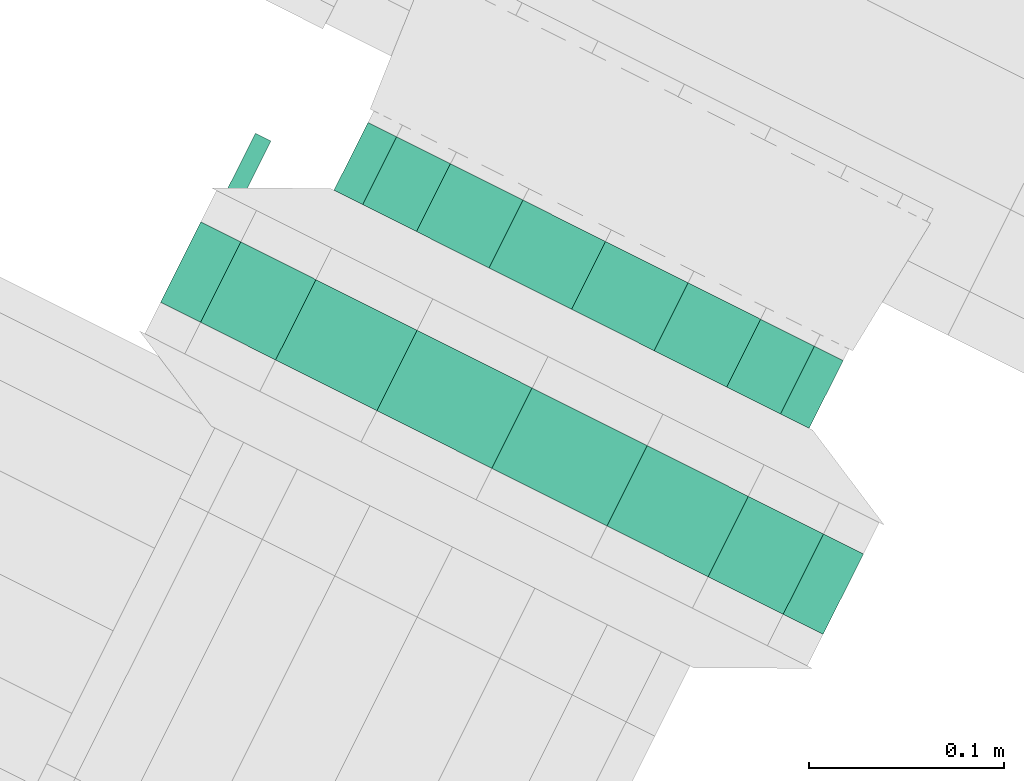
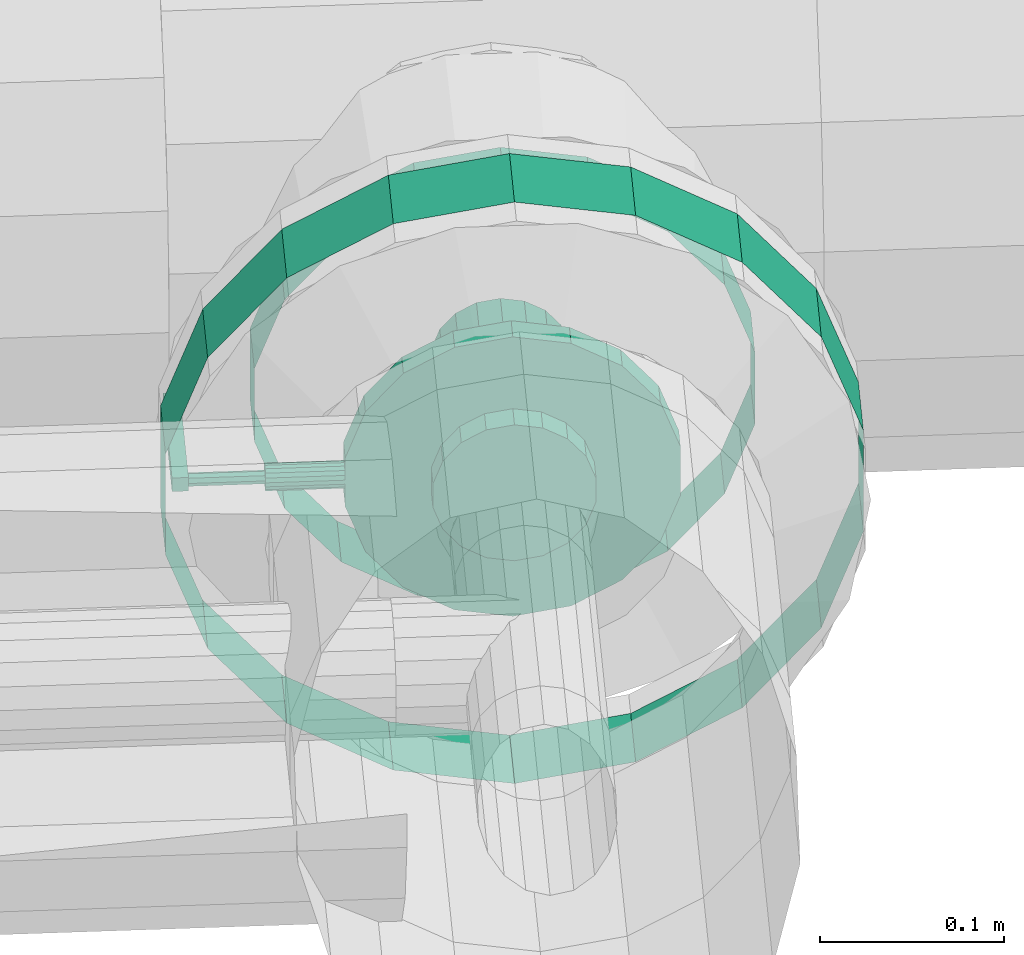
# One storey, part 44 of 152: 1 flow controller, 1 flow segment.
"""IFC2X3 building model written with IfcOpenShell, lengths in metres."""

import ifcopenshell
import ifcopenshell.guid

model = None  # the IFC model being written
_history = None  # IfcOwnerHistory: only IFC2X3 demands one
_inside = {}  # id of a spatial element -> (the spatial element, [elements in it])
_under = {}  # id of a project, library or spatial element -> (it, [spatial elements below it])
_declared = {}  # id of a project -> (the project, [libraries it declares])
_typed = {}  # id of a type object -> (the type object, [elements of that type])
_made_of = {}  # id of a material, layer set ... -> (it, [elements and type objects made of it])


def new_model(schema):
    """Start an empty IFC model of exactly this schema.

    Asked for "IFC4X3", IfcOpenShell would pick the latest addendum, in which some entities
    have other attributes; the version numbers below select the first issue.
    IFC2X3 requires an IfcOwnerHistory on every rooted entity: one is made here for all.
    """
    global model, _history
    if schema == "IFC4X3":
        model = ifcopenshell.file(schema_version=(4, 3, 0, 0))
    else:
        model = ifcopenshell.file(schema=schema)
    _inside.clear()
    _under.clear()
    _declared.clear()
    _typed.clear()
    _made_of.clear()
    _history = None
    if model.schema == "IFC2X3":
        org = make("IfcOrganization", Name="unknown")
        user = make(
            "IfcPersonAndOrganization",
            ThePerson=make("IfcPerson", FamilyName="unknown"),
            TheOrganization=org,
        )
        app = make(
            "IfcApplication",
            ApplicationDeveloper=org,
            Version="unknown",
            ApplicationFullName="unknown",
            ApplicationIdentifier="unknown",
        )
        _history = make(
            "IfcOwnerHistory",
            OwningUser=user,
            OwningApplication=app,
            ChangeAction="ADDED",
            CreationDate=0,
        )
    return model


def make(cls, **values):
    """One entity of the class cls with the attributes given. An attribute that is None is left unset."""
    return model.create_entity(
        cls, **{name: value for name, value in values.items() if value is not None}
    )


def rooted(cls, **values):
    """An entity with a GlobalId (a new one), such as an element, a storey or a relation."""
    return make(cls, GlobalId=ifcopenshell.guid.new(), OwnerHistory=_history, **values)


def si_unit(unit_type, name, prefix=None):
    """IfcSIUnit, for example si_unit("LENGTHUNIT", "METRE", prefix="MILLI")."""
    return make("IfcSIUnit", UnitType=unit_type, Prefix=prefix, Name=name)


def derived_unit(unit_type, elements):
    """IfcDerivedUnit: a product of units, each with its exponent."""
    return make(
        "IfcDerivedUnit",
        Elements=[
            make("IfcDerivedUnitElement", Unit=unit, Exponent=power)
            for unit, power in elements
        ],
        UnitType=unit_type,
    )


def assignment(units):
    """IfcUnitAssignment: the units of a project."""
    return None if units is None else make("IfcUnitAssignment", Units=units)


def point(xyz):
    """IfcCartesianPoint."""
    return None if xyz is None else make("IfcCartesianPoint", Coordinates=xyz)


def direction(xyz):
    """IfcDirection."""
    return None if xyz is None else make("IfcDirection", DirectionRatios=xyz)


def frame(location, z_axis=None, x_axis=None):
    """IfcAxis2Placement3D, a coordinate frame: its origin and axes. An axis left out is left unset."""
    return make(
        "IfcAxis2Placement3D",
        Location=point(location),
        Axis=direction(z_axis),
        RefDirection=direction(x_axis),
    )


def origin():
    """The frame at (0, 0, 0) with its axes left unset."""
    return frame((0.0, 0.0, 0.0))


def place(relative_to, where):
    """IfcLocalPlacement: puts the frame where relative to a parent placement (None: the world)."""
    return make(
        "IfcLocalPlacement", PlacementRelTo=relative_to, RelativePlacement=where
    )


def context(
    kind, dimensions, precision=None, world=None, true_north=None, identifier=None
):
    """IfcGeometricRepresentationContext, for example the 3D "Model" context."""
    return make(
        "IfcGeometricRepresentationContext",
        ContextIdentifier=identifier,
        ContextType=kind,
        CoordinateSpaceDimension=dimensions,
        Precision=precision,
        WorldCoordinateSystem=world,
        TrueNorth=true_north,
    )


def subcontext(parent, identifier, kind, view, scale=None):
    """IfcGeometricRepresentationSubContext, for example "Body" below "Model"."""
    return make(
        "IfcGeometricRepresentationSubContext",
        ContextIdentifier=identifier,
        ContextType=kind,
        ParentContext=parent,
        TargetScale=scale,
        TargetView=view,
    )


def project(units=None, contexts=None):
    """IfcProject with its units and contexts."""
    return rooted(
        "IfcProject",
        Name="project",
        RepresentationContexts=contexts,
        UnitsInContext=assignment(units),
    )


def spatial(cls, under=None, at=None, **own):
    """A site, building, storey or space (cls), placed at a placement, below another one or the project."""
    s = rooted(cls, ObjectPlacement=at, **own)
    if under is not None:
        _under.setdefault(under.id(), (under, []))[1].append(s)
    return s


def faces_of(points, faces, orient=None, outer=None):
    """IfcFace entities. A face is a list of loops; a loop is a list of indices into points, from 0.

    orient and outer hold one flag for each loop. By default every Orientation is true, the
    first loop of a face is its IfcFaceOuterBound and the others are IfcFaceBound.
    """
    made = []
    for i, loops in enumerate(faces):
        bounds = []
        for j, loop in enumerate(loops):
            is_outer = j == 0 if outer is None else outer[i][j]
            bounds.append(
                make(
                    "IfcFaceOuterBound" if is_outer else "IfcFaceBound",
                    Bound=make("IfcPolyLoop", Polygon=[points[k] for k in loop]),
                    Orientation=True if orient is None else orient[i][j],
                )
            )
        made.append(make("IfcFace", Bounds=bounds))
    return made


def face_set(faces, orient=None, outer=None):
    """The faces of one IfcConnectedFaceSet. surface_model builds it on its shared points."""
    return ("IfcConnectedFaceSet", faces, orient, outer)


def surface_model(cls, points, shells):
    """IfcFaceBasedSurfaceModel or IfcShellBasedSurfaceModel (cls): surfaces that need not close."""
    shared = [point(p) for p in points]
    made = [make(c, CfsFaces=faces_of(shared, fs, o, b)) for c, fs, o, b in shells]
    if cls == "IfcFaceBasedSurfaceModel":
        return make(cls, FbsmFaces=made)
    return make(cls, SbsmBoundary=made)


def shape(context_of_items, identifier, shape_type, items):
    """IfcShapeRepresentation: the items that make up one representation, for example the "Body"."""
    return make(
        "IfcShapeRepresentation",
        ContextOfItems=context_of_items,
        RepresentationIdentifier=identifier,
        RepresentationType=shape_type,
        Items=items,
    )


def source(mapping_origin, context_of_items, identifier, shape_type, items):
    """IfcRepresentationMap: a shape defined once, which mapped items show again and again."""
    return make(
        "IfcRepresentationMap",
        MappingOrigin=mapping_origin,
        MappedRepresentation=shape(context_of_items, identifier, shape_type, items),
    )


def transform(
    local_origin,
    x_axis=None,
    y_axis=None,
    z_axis=None,
    scale=None,
    scale2=None,
    scale3=None,
    uniform=True,
):
    """IfcCartesianTransformationOperator3D, or its non-uniform kind. x_axis, y_axis, z_axis: its Axis1, 2, 3."""
    if uniform:
        return make(
            "IfcCartesianTransformationOperator3D",
            Axis1=direction(x_axis),
            Axis2=direction(y_axis),
            LocalOrigin=point(local_origin),
            Scale=scale,
            Axis3=direction(z_axis),
        )
    return make(
        "IfcCartesianTransformationOperator3DnonUniform",
        Axis1=direction(x_axis),
        Axis2=direction(y_axis),
        LocalOrigin=point(local_origin),
        Scale=scale,
        Axis3=direction(z_axis),
        Scale2=scale2,
        Scale3=scale3,
    )


def mapped(mapping_source, mapping_target):
    """IfcMappedItem: shows the shape of a source again, moved by a transform."""
    return make(
        "IfcMappedItem", MappingSource=mapping_source, MappingTarget=mapping_target
    )


def material(Name=None, Category=None):
    """IfcMaterial."""
    return make("IfcMaterial", Name=Name, Category=Category)


def made_of(thing, what):
    """Note that an element or type object is made of a material, layer set ...; save() writes the relation."""
    if what is not None:
        _made_of.setdefault(what.id(), (what, []))[1].append(thing)
    return thing


def type_object(cls, material=None, **own):
    """A type object (cls), such as IfcWallType, which elements share."""
    return made_of(rooted(cls, **own), material)


def type_shapes(of_type, sources):
    """Give a type object the sources (RepresentationMaps) that its elements show as mapped items."""
    of_type.RepresentationMaps = sources


def element(
    cls,
    number,
    at=None,
    inside=None,
    cuts=None,
    type_object=None,
    material=None,
    context=None,
    identifier="Body",
    shape_type=None,
    held_by="IfcProductDefinitionShape",
    body=None,
    shapes=None,
    **own,
):
    """One element of the class cls, such as IfcWall. Its Tag is "e" and its number.

    at: its placement. inside: the storey or other place that contains it. cuts: it is an
    opening in that element (IfcRelVoidsElement). A single representation is given by context,
    identifier, shape_type and body (its items); several are given by shapes. held_by: the class
    of the entity that holds the representations. save() writes the other relations.
    """
    e = rooted(cls, Tag="e%d" % number, ObjectPlacement=at, **own)
    if body is not None:
        shapes = [shape(context, identifier, shape_type, body)]
    if shapes is not None:
        e.Representation = make(held_by, Representations=shapes)
    if inside is not None:
        _inside.setdefault(inside.id(), (inside, []))[1].append(e)
    if cuts is not None:
        rooted(
            "IfcRelVoidsElement", RelatingBuildingElement=cuts, RelatedOpeningElement=e
        )
    if type_object is not None:
        _typed.setdefault(type_object.id(), (type_object, []))[1].append(e)
    return made_of(e, material)


def aggregate(whole, parts):
    """IfcRelAggregates: a whole, such as a stair, and the parts it consists of."""
    return rooted("IfcRelAggregates", RelatingObject=whole, RelatedObjects=parts)


def save(model, path):
    """Write the relations noted so far, then the file.

    IfcRelAggregates (storeys below a building ...), IfcRelContainedInSpatialStructure (elements
    in a storey), IfcRelDefinesByType, IfcRelAssociatesMaterial and IfcRelDeclares: one each for
    every whole, place, type object, material and project.
    """
    for whole, parts in _under.values():
        aggregate(whole, parts)
    for where, things in _inside.values():
        rooted(
            "IfcRelContainedInSpatialStructure",
            RelatedElements=things,
            RelatingStructure=where,
        )
    for kind, things in _typed.values():
        rooted("IfcRelDefinesByType", RelatedObjects=things, RelatingType=kind)
    for what, things in _made_of.values():
        rooted("IfcRelAssociatesMaterial", RelatedObjects=things, RelatingMaterial=what)
    for by, libraries in _declared.values():
        rooted("IfcRelDeclares", RelatingContext=by, RelatedDefinitions=libraries)
    model.write(path)


model = new_model("IFC2X3")

# Units and contexts
model_context = context("Model", 3, precision=5.2338327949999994e-05, world=origin(), true_north=direction((0.0, 1.0)))
body_context = subcontext(model_context, "Body", "Model", "MODEL_VIEW")
ifc_project = project(units=[si_unit("LENGTHUNIT", "METRE"), si_unit("AREAUNIT", "SQUARE_METRE"), si_unit("VOLUMEUNIT", "CUBIC_METRE"), si_unit("MASSUNIT", "GRAM", prefix="KILO"), si_unit("PLANEANGLEUNIT", "RADIAN"), derived_unit("THERMALTRANSMITTANCEUNIT", [(si_unit("MASSUNIT", "GRAM", prefix="KILO"), 1), (si_unit("THERMODYNAMICTEMPERATUREUNIT", "KELVIN"), -1), (si_unit("TIMEUNIT", "SECOND"), -3)])], contexts=[model_context])

# Site, building, storey
site_placement = place(None, frame((0.0, 0.0, 0.0), z_axis=(0.0, 0.0, 1.0), x_axis=(0.8939966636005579, -0.4480736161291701, 0.0)))
site = spatial("IfcSite", under=ifc_project, at=site_placement, Name="Default", CompositionType="ELEMENT")
building_placement = place(site_placement, origin())
building = spatial("IfcBuilding", under=site, at=building_placement, CompositionType="ELEMENT")
storey_placement = place(building_placement, frame((0.0, 0.0, 2.7499999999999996)))
storey = spatial("IfcBuildingStorey", under=building, at=storey_placement, Name="1. Obergeschoss", CompositionType="ELEMENT", Elevation=2.7499999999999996)

# Flow controller
ifc_material = material(Name="IfcSurfaceStyle #1741")
distribution_element_type_1 = type_object("IfcDistributionElementType", Name="Zwischenflanschklappe 260081:Zwischenflanschklappe 260081", material=ifc_material)
shared_shape_1 = source(origin(), body_context, "Body", "SurfaceModel", [
    surface_model("IfcFaceBasedSurfaceModel", [(14.88124256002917, 7.739481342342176, 5.640140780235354), (14.88124256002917, 7.658881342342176, 5.640140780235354), (14.88124256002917, 7.658881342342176, 5.631140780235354), (14.88124256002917, 7.739481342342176, 5.631140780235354), (14.872242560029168, 7.658881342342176, 5.631140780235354), (14.872242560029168, 7.739481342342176, 5.631140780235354), (14.872242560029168, 7.658881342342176, 5.640140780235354), (14.872242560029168, 7.739481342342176, 5.640140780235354), (15.057242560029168, 7.686381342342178, 5.590640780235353), (15.072633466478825, 7.686381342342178, 5.593354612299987), (15.072633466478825, 7.671048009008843, 5.593354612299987), (15.057242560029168, 7.671048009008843, 5.590640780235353), (15.086168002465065, 7.686381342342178, 5.601168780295), (15.086168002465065, 7.671048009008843, 5.601168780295), (15.096213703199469, 7.686381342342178, 5.613140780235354), (15.096213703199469, 7.671048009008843, 5.613140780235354), (15.101558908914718, 7.686381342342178, 5.627826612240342), (15.101558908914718, 7.671048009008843, 5.627826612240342), (15.101558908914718, 7.686381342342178, 5.6434549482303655), (15.101558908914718, 7.671048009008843, 5.6434549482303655), (15.096213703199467, 7.686381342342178, 5.658140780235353), (15.096213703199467, 7.671048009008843, 5.658140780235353), (15.086168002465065, 7.686381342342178, 5.6701127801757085), (15.086168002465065, 7.671048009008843, 5.6701127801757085), (15.072633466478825, 7.686381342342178, 5.677926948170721), (15.072633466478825, 7.671048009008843, 5.677926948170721), (15.057242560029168, 7.686381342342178, 5.680640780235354), (15.057242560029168, 7.671048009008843, 5.680640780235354), (15.041851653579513, 7.686381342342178, 5.67792694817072), (15.041851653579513, 7.671048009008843, 5.67792694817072), (15.028317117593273, 7.686381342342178, 5.670112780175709), (15.028317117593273, 7.671048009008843, 5.670112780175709), (15.018271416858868, 7.686381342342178, 5.658140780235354), (15.018271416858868, 7.671048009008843, 5.658140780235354), (15.01292621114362, 7.686381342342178, 5.6434549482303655), (15.01292621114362, 7.671048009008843, 5.6434549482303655), (15.01292621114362, 7.686381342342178, 5.627826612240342), (15.01292621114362, 7.671048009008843, 5.627826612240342), (15.018271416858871, 7.686381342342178, 5.613140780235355), (15.018271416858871, 7.671048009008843, 5.613140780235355), (15.028317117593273, 7.686381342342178, 5.601168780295), (15.028317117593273, 7.671048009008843, 5.601168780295), (15.041851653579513, 7.686381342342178, 5.593354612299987), (15.041851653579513, 7.671048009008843, 5.593354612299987), (15.057242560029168, 7.686381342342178, 5.635640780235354), (15.057242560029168, 7.671048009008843, 5.635640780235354), (15.057242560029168, 7.671048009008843, 5.543140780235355), (15.088879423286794, 7.671048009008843, 5.548719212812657), (15.088879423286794, 7.655714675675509, 5.548719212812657), (15.057242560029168, 7.655714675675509, 5.543140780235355), (15.116700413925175, 7.671048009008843, 5.564781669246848), (15.116700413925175, 7.655714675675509, 5.564781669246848), (15.13734990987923, 7.671048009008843, 5.5893907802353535), (15.13734990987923, 7.655714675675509, 5.5893907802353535), (15.148337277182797, 7.671048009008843, 5.619578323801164), (15.148337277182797, 7.655714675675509, 5.619578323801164), (15.1483372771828, 7.671048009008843, 5.651703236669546), (15.1483372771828, 7.655714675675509, 5.651703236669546), (15.13734990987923, 7.671048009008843, 5.681890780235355), (15.13734990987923, 7.655714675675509, 5.681890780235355), (15.116700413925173, 7.671048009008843, 5.706499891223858), (15.116700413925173, 7.655714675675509, 5.706499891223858), (15.088879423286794, 7.671048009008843, 5.722562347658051), (15.088879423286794, 7.655714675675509, 5.722562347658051), (15.057242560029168, 7.671048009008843, 5.7281407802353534), (15.057242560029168, 7.655714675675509, 5.7281407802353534), (15.025605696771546, 7.671048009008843, 5.722562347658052), (15.025605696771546, 7.655714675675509, 5.722562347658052), (14.997784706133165, 7.671048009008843, 5.706499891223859), (14.997784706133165, 7.655714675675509, 5.706499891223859), (14.977135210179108, 7.671048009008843, 5.681890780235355), (14.977135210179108, 7.655714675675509, 5.681890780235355), (14.96614784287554, 7.671048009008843, 5.651703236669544), (14.96614784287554, 7.655714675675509, 5.651703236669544), (14.966147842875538, 7.671048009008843, 5.619578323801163), (14.966147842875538, 7.655714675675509, 5.619578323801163), (14.977135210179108, 7.671048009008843, 5.5893907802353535), (14.977135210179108, 7.655714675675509, 5.5893907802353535), (14.997784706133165, 7.671048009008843, 5.564781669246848), (14.997784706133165, 7.655714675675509, 5.564781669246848), (15.025605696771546, 7.671048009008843, 5.548719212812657), (15.025605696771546, 7.655714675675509, 5.548719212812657), (15.057242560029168, 7.655714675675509, 5.635640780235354), (15.057242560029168, 7.655714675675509, 5.590640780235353), (15.072633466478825, 7.655714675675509, 5.593354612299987), (15.072633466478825, 7.640381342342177, 5.593354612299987), (15.057242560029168, 7.640381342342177, 5.590640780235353), (15.086168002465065, 7.655714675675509, 5.601168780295), (15.086168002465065, 7.640381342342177, 5.601168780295), (15.096213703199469, 7.655714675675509, 5.613140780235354), (15.096213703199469, 7.640381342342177, 5.613140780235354), (15.101558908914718, 7.655714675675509, 5.627826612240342), (15.101558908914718, 7.640381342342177, 5.627826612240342), (15.101558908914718, 7.655714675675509, 5.6434549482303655), (15.101558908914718, 7.640381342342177, 5.6434549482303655), (15.096213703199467, 7.655714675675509, 5.658140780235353), (15.096213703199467, 7.640381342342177, 5.658140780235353), (15.086168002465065, 7.655714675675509, 5.6701127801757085), (15.086168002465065, 7.640381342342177, 5.6701127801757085), (15.072633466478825, 7.655714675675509, 5.677926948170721), (15.072633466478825, 7.640381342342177, 5.677926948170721), (15.057242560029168, 7.655714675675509, 5.680640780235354), (15.057242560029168, 7.640381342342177, 5.680640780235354), (15.041851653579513, 7.655714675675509, 5.67792694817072), (15.041851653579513, 7.640381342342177, 5.67792694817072), (15.028317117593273, 7.655714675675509, 5.670112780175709), (15.028317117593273, 7.640381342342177, 5.670112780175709), (15.018271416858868, 7.655714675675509, 5.658140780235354), (15.018271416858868, 7.640381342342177, 5.658140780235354), (15.01292621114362, 7.655714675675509, 5.6434549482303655), (15.01292621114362, 7.640381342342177, 5.6434549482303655), (15.01292621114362, 7.655714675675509, 5.627826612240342), (15.01292621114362, 7.640381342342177, 5.627826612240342), (15.018271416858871, 7.655714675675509, 5.613140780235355), (15.018271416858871, 7.640381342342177, 5.613140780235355), (15.028317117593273, 7.655714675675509, 5.601168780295), (15.028317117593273, 7.640381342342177, 5.601168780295), (15.041851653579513, 7.655714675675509, 5.593354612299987), (15.041851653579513, 7.640381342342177, 5.593354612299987), (15.057242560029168, 7.640381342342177, 5.635640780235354), (15.057242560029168, 7.663381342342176, 5.627974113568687), (15.057242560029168, 7.6607591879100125, 5.6284364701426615), (14.922992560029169, 7.6607591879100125, 5.6284364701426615), (14.922992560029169, 7.663381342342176, 5.627974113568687), (15.057242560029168, 7.658453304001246, 5.629767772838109), (14.922992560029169, 7.658453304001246, 5.629767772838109), (15.057242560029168, 7.656741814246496, 5.6318074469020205), (14.922992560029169, 7.656741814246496, 5.6318074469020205), (15.057242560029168, 7.655831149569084, 5.634309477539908), (14.922992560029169, 7.655831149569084, 5.634309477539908), (15.057242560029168, 7.655831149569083, 5.636972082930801), (14.922992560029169, 7.655831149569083, 5.636972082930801), (15.057242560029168, 7.656741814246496, 5.639474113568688), (14.922992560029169, 7.656741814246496, 5.639474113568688), (15.057242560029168, 7.658453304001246, 5.641513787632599), (14.922992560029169, 7.658453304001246, 5.641513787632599), (15.057242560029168, 7.6607591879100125, 5.642845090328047), (14.922992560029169, 7.6607591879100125, 5.642845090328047), (15.057242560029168, 7.663381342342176, 5.643307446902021), (14.922992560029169, 7.663381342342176, 5.643307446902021), (15.057242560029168, 7.666003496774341, 5.642845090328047), (14.922992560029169, 7.666003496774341, 5.642845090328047), (15.057242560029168, 7.668309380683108, 5.6415137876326), (14.922992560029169, 7.668309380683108, 5.6415137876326), (15.057242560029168, 7.670020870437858, 5.639474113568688), (14.922992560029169, 7.670020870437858, 5.639474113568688), (15.057242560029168, 7.670931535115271, 5.636972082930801), (14.922992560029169, 7.670931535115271, 5.636972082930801), (15.057242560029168, 7.670931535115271, 5.634309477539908), (14.922992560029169, 7.670931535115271, 5.634309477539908), (15.057242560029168, 7.670020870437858, 5.6318074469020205), (14.922992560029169, 7.670020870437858, 5.6318074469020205), (15.057242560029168, 7.668309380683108, 5.629767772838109), (14.922992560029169, 7.668309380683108, 5.629767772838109), (15.057242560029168, 7.666003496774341, 5.628436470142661), (14.922992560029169, 7.666003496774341, 5.628436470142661), (15.057242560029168, 7.663381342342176, 5.635640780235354), (14.922992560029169, 7.663381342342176, 5.635640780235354), (14.922992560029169, 7.663381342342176, 5.631835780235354), (14.922992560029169, 7.660690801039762, 5.63295023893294), (14.88124256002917, 7.660690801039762, 5.63295023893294), (14.88124256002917, 7.663381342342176, 5.631835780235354), (14.922992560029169, 7.659576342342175, 5.635640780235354), (14.88124256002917, 7.659576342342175, 5.635640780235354), (14.922992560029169, 7.660690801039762, 5.638331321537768), (14.88124256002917, 7.660690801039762, 5.638331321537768), (14.922992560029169, 7.663381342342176, 5.639445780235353), (14.88124256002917, 7.663381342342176, 5.639445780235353), (14.922992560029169, 7.666071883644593, 5.638331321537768), (14.88124256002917, 7.666071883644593, 5.638331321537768), (14.922992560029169, 7.667186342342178, 5.635640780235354), (14.88124256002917, 7.667186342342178, 5.635640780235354), (14.922992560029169, 7.666071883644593, 5.63295023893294), (14.88124256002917, 7.666071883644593, 5.63295023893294), (14.881242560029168, 7.663381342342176, 5.635640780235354), (15.057242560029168, 7.686381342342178, 5.443140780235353), (15.12308143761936, 7.686381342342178, 5.454749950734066), (15.12308143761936, 7.640381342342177, 5.454749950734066), (15.057242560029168, 7.640381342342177, 5.443140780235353), (15.18097917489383, 7.686381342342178, 5.488177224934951), (15.18097917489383, 7.640381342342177, 5.488177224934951), (15.223952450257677, 7.686381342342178, 5.539390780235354), (15.223952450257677, 7.640381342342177, 5.539390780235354), (15.246818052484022, 7.686381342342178, 5.602213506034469), (15.246818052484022, 7.640381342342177, 5.602213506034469), (15.24681805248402, 7.686381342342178, 5.669068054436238), (15.24681805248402, 7.640381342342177, 5.669068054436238), (15.223952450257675, 7.686381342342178, 5.731890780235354), (15.223952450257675, 7.640381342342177, 5.731890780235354), (15.18097917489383, 7.686381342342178, 5.783104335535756), (15.18097917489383, 7.640381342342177, 5.783104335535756), (15.12308143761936, 7.686381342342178, 5.816531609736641), (15.12308143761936, 7.640381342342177, 5.816531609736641), (15.057242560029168, 7.686381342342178, 5.828140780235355), (15.057242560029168, 7.640381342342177, 5.828140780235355), (14.991403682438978, 7.686381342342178, 5.816531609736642), (14.991403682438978, 7.640381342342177, 5.816531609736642), (14.93350594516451, 7.686381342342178, 5.783104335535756), (14.93350594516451, 7.640381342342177, 5.783104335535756), (14.890532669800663, 7.686381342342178, 5.731890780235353), (14.890532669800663, 7.640381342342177, 5.731890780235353), (14.867667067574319, 7.686381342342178, 5.669068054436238), (14.867667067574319, 7.640381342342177, 5.669068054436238), (14.867667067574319, 7.686381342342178, 5.602213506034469), (14.867667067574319, 7.640381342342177, 5.602213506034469), (14.890532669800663, 7.686381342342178, 5.539390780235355), (14.890532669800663, 7.640381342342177, 5.539390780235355), (14.93350594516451, 7.686381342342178, 5.488177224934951), (14.93350594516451, 7.640381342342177, 5.488177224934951), (14.991403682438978, 7.686381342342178, 5.454749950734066), (14.991403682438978, 7.640381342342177, 5.454749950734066)], [face_set([[[0, 1, 2, 3]], [[3, 2, 4, 5]], [[5, 4, 6, 7]], [[7, 6, 1, 0]], [[0, 3, 5, 7]], [[6, 4, 2, 1]], [[8, 9, 10, 11]], [[9, 12, 13, 10]], [[12, 14, 15, 13]], [[14, 16, 17, 15]], [[16, 18, 19, 17]], [[18, 20, 21, 19]], [[20, 22, 23, 21]], [[22, 24, 25, 23]], [[24, 26, 27, 25]], [[26, 28, 29, 27]], [[28, 30, 31, 29]], [[30, 32, 33, 31]], [[32, 34, 35, 33]], [[34, 36, 37, 35]], [[36, 38, 39, 37]], [[38, 40, 41, 39]], [[40, 42, 43, 41]], [[42, 8, 11, 43]], [[44, 9, 8]], [[44, 12, 9]], [[44, 14, 12]], [[44, 16, 14]], [[44, 18, 16]], [[44, 20, 18]], [[44, 22, 20]], [[44, 24, 22]], [[44, 26, 24]], [[44, 28, 26]], [[44, 30, 28]], [[44, 32, 30]], [[44, 34, 32]], [[44, 36, 34]], [[44, 38, 36]], [[44, 40, 38]], [[44, 42, 40]], [[44, 8, 42]], [[45, 43, 11]], [[45, 41, 43]], [[45, 39, 41]], [[45, 37, 39]], [[45, 35, 37]], [[45, 33, 35]], [[45, 31, 33]], [[45, 29, 31]], [[45, 27, 29]], [[45, 25, 27]], [[45, 23, 25]], [[45, 21, 23]], [[45, 19, 21]], [[45, 17, 19]], [[45, 15, 17]], [[45, 13, 15]], [[45, 10, 13]], [[45, 11, 10]], [[46, 47, 48, 49]], [[47, 50, 51, 48]], [[50, 52, 53, 51]], [[52, 54, 55, 53]], [[54, 56, 57, 55]], [[56, 58, 59, 57]], [[58, 60, 61, 59]], [[60, 62, 63, 61]], [[62, 64, 65, 63]], [[64, 66, 67, 65]], [[66, 68, 69, 67]], [[68, 70, 71, 69]], [[70, 72, 73, 71]], [[72, 74, 75, 73]], [[74, 76, 77, 75]], [[76, 78, 79, 77]], [[78, 80, 81, 79]], [[80, 46, 49, 81]], [[45, 47, 46]], [[45, 50, 47]], [[45, 52, 50]], [[45, 54, 52]], [[45, 56, 54]], [[45, 58, 56]], [[45, 60, 58]], [[45, 62, 60]], [[45, 64, 62]], [[45, 66, 64]], [[45, 68, 66]], [[45, 70, 68]], [[45, 72, 70]], [[45, 74, 72]], [[45, 76, 74]], [[45, 78, 76]], [[45, 80, 78]], [[45, 46, 80]], [[82, 81, 49]], [[82, 79, 81]], [[82, 77, 79]], [[82, 75, 77]], [[82, 73, 75]], [[82, 71, 73]], [[82, 69, 71]], [[82, 67, 69]], [[82, 65, 67]], [[82, 63, 65]], [[82, 61, 63]], [[82, 59, 61]], [[82, 57, 59]], [[82, 55, 57]], [[82, 53, 55]], [[82, 51, 53]], [[82, 48, 51]], [[82, 49, 48]], [[83, 84, 85, 86]], [[84, 87, 88, 85]], [[87, 89, 90, 88]], [[89, 91, 92, 90]], [[91, 93, 94, 92]], [[93, 95, 96, 94]], [[95, 97, 98, 96]], [[97, 99, 100, 98]], [[99, 101, 102, 100]], [[101, 103, 104, 102]], [[103, 105, 106, 104]], [[105, 107, 108, 106]], [[107, 109, 110, 108]], [[109, 111, 112, 110]], [[111, 113, 114, 112]], [[113, 115, 116, 114]], [[115, 117, 118, 116]], [[117, 83, 86, 118]], [[82, 84, 83]], [[82, 87, 84]], [[82, 89, 87]], [[82, 91, 89]], [[82, 93, 91]], [[82, 95, 93]], [[82, 97, 95]], [[82, 99, 97]], [[82, 101, 99]], [[82, 103, 101]], [[82, 105, 103]], [[82, 107, 105]], [[82, 109, 107]], [[82, 111, 109]], [[82, 113, 111]], [[82, 115, 113]], [[82, 117, 115]], [[82, 83, 117]], [[119, 118, 86]], [[119, 116, 118]], [[119, 114, 116]], [[119, 112, 114]], [[119, 110, 112]], [[119, 108, 110]], [[119, 106, 108]], [[119, 104, 106]], [[119, 102, 104]], [[119, 100, 102]], [[119, 98, 100]], [[119, 96, 98]], [[119, 94, 96]], [[119, 92, 94]], [[119, 90, 92]], [[119, 88, 90]], [[119, 85, 88]], [[119, 86, 85]], [[120, 121, 122, 123]], [[121, 124, 125, 122]], [[124, 126, 127, 125]], [[126, 128, 129, 127]], [[128, 130, 131, 129]], [[130, 132, 133, 131]], [[132, 134, 135, 133]], [[134, 136, 137, 135]], [[136, 138, 139, 137]], [[138, 140, 141, 139]], [[140, 142, 143, 141]], [[142, 144, 145, 143]], [[144, 146, 147, 145]], [[146, 148, 149, 147]], [[148, 150, 151, 149]], [[150, 152, 153, 151]], [[152, 154, 155, 153]], [[154, 120, 123, 155]], [[156, 121, 120]], [[156, 124, 121]], [[156, 126, 124]], [[156, 128, 126]], [[156, 130, 128]], [[156, 132, 130]], [[156, 134, 132]], [[156, 136, 134]], [[156, 138, 136]], [[156, 140, 138]], [[156, 142, 140]], [[156, 144, 142]], [[156, 146, 144]], [[156, 148, 146]], [[156, 150, 148]], [[156, 152, 150]], [[156, 154, 152]], [[156, 120, 154]], [[157, 155, 123]], [[157, 153, 155]], [[157, 151, 153]], [[157, 149, 151]], [[157, 147, 149]], [[157, 145, 147]], [[157, 143, 145]], [[157, 141, 143]], [[157, 139, 141]], [[157, 137, 139]], [[157, 135, 137]], [[157, 133, 135]], [[157, 131, 133]], [[157, 129, 131]], [[157, 127, 129]], [[157, 125, 127]], [[157, 122, 125]], [[157, 123, 122]], [[158, 159, 160, 161]], [[159, 162, 163, 160]], [[162, 164, 165, 163]], [[164, 166, 167, 165]], [[166, 168, 169, 167]], [[168, 170, 171, 169]], [[170, 172, 173, 171]], [[172, 158, 161, 173]], [[174, 173, 161]], [[174, 171, 173]], [[174, 169, 171]], [[174, 167, 169]], [[174, 165, 167]], [[174, 163, 165]], [[174, 160, 163]], [[174, 161, 160]], [[175, 176, 177, 178]], [[176, 179, 180, 177]], [[179, 181, 182, 180]], [[181, 183, 184, 182]], [[183, 185, 186, 184]], [[185, 187, 188, 186]], [[187, 189, 190, 188]], [[189, 191, 192, 190]], [[191, 193, 194, 192]], [[193, 195, 196, 194]], [[195, 197, 198, 196]], [[197, 199, 200, 198]], [[199, 201, 202, 200]], [[201, 203, 204, 202]], [[203, 205, 206, 204]], [[205, 207, 208, 206]], [[207, 209, 210, 208]], [[209, 175, 178, 210]]])]),
])
type_shapes(distribution_element_type_1, [shared_shape_1])
flow_controller_placement = place(storey_placement, frame((0.0, 0.0, -2.7499999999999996)))
element("IfcFlowController", 1, at=flow_controller_placement, inside=storey, type_object=distribution_element_type_1, material=ifc_material, Name="Zwischenflanschklappe", ObjectType="Zwischenflanschklappe", context=body_context, shape_type="MappedRepresentation", body=[
    mapped(shared_shape_1, transform((0.0, 0.0, 0.0), scale=1.0)),
])

# Flow segment
distribution_element_type_2 = type_object("IfcDistributionElementType", Name="Stahlrohr nach DIN 2448 261809:Stahlrohr nach DIN 2448 261809", material=ifc_material)
shared_shape_2 = source(origin(), body_context, "Body", "SurfaceModel", [
    surface_model("IfcFaceBasedSurfaceModel", [(15.057242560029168, 7.770208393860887, 5.673690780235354), (15.044228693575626, 7.770208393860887, 5.671396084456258), (15.044228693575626, 7.7313813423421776, 5.671396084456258), (15.057242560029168, 7.7313813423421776, 5.673690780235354), (15.0327844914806, 7.770208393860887, 5.6647887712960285), (15.032784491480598, 7.7313813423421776, 5.664788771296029), (15.02429029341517, 7.770208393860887, 5.654665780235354), (15.02429029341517, 7.7313813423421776, 5.654665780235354), (15.019770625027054, 7.770208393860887, 5.6422480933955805), (15.019770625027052, 7.7313813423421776, 5.6422480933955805), (15.019770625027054, 7.770208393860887, 5.629033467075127), (15.019770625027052, 7.7313813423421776, 5.629033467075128), (15.024290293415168, 7.770208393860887, 5.616615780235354), (15.024290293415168, 7.7313813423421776, 5.616615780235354), (15.032784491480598, 7.770208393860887, 5.606492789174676), (15.032784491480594, 7.7313813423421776, 5.606492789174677), (15.044228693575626, 7.770208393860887, 5.5998854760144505), (15.044228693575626, 7.7313813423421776, 5.5998854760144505), (15.057242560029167, 7.770208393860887, 5.597590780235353), (15.057242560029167, 7.7313813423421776, 5.597590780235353), (15.07025642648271, 7.770208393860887, 5.59988547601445), (15.07025642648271, 7.7313813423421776, 5.59988547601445), (15.08170062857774, 7.770208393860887, 5.606492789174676), (15.08170062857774, 7.7313813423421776, 5.606492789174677), (15.090194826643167, 7.770208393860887, 5.616615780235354), (15.090194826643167, 7.7313813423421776, 5.616615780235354), (15.094714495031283, 7.770208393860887, 5.629033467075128), (15.094714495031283, 7.7313813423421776, 5.629033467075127), (15.094714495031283, 7.770208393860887, 5.6422480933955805), (15.094714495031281, 7.7313813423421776, 5.6422480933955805), (15.090194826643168, 7.770208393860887, 5.654665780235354), (15.090194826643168, 7.7313813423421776, 5.654665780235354), (15.08170062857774, 7.770208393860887, 5.66478877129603), (15.08170062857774, 7.7313813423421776, 5.66478877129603), (15.07025642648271, 7.770208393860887, 5.671396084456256), (15.07025642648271, 7.7313813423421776, 5.671396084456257), (15.057242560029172, 7.770208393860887, 5.773690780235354), (15.010026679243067, 7.770208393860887, 5.765365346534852), (15.010026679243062, 7.7313813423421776, 5.76536534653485), (15.057242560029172, 7.7313813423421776, 5.773690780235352), (14.968505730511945, 7.770208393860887, 5.741393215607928), (14.968505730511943, 7.7313813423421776, 5.741393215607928), (14.93768775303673, 7.770208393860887, 5.704665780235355), (14.93768775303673, 7.7313813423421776, 5.704665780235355), (14.921289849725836, 7.770208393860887, 5.659612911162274), (14.921289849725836, 7.7313813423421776, 5.659612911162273), (14.921289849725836, 7.770208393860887, 5.6116686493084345), (14.921289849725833, 7.7313813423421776, 5.6116686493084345), (14.937687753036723, 7.770208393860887, 5.566615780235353), (14.937687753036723, 7.7313813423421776, 5.566615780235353), (14.968505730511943, 7.770208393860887, 5.529888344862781), (14.968505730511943, 7.7313813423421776, 5.529888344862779), (15.010026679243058, 7.770208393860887, 5.5059162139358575), (15.010026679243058, 7.7313813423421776, 5.505916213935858), (15.057242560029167, 7.770208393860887, 5.497590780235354), (15.057242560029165, 7.7313813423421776, 5.497590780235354), (15.104458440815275, 7.770208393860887, 5.5059162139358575), (15.104458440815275, 7.7313813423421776, 5.5059162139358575), (15.145979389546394, 7.770208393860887, 5.52988834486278), (15.145979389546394, 7.7313813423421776, 5.52988834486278), (15.176797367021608, 7.770208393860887, 5.566615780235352), (15.176797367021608, 7.7313813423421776, 5.566615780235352), (15.1931952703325, 7.770208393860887, 5.611668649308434), (15.1931952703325, 7.7313813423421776, 5.611668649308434), (15.193195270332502, 7.770208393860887, 5.659612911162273), (15.1931952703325, 7.7313813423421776, 5.659612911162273), (15.176797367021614, 7.770208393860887, 5.704665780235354), (15.176797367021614, 7.7313813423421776, 5.704665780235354), (15.145979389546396, 7.770208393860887, 5.7413932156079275), (15.145979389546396, 7.7313813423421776, 5.741393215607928), (15.10445844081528, 7.770208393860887, 5.765365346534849), (15.10445844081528, 7.7313813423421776, 5.76536534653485)], [face_set([[[0, 1, 2, 3]], [[1, 4, 5, 2]], [[4, 6, 7, 5]], [[6, 8, 9, 7]], [[8, 10, 11, 9]], [[10, 12, 13, 11]], [[12, 14, 15, 13]], [[14, 16, 17, 15]], [[16, 18, 19, 17]], [[18, 20, 21, 19]], [[20, 22, 23, 21]], [[22, 24, 25, 23]], [[24, 26, 27, 25]], [[26, 28, 29, 27]], [[28, 30, 31, 29]], [[30, 32, 33, 31]], [[32, 34, 35, 33]], [[34, 0, 3, 35]], [[36, 37, 38, 39]], [[37, 40, 41, 38]], [[40, 42, 43, 41]], [[42, 44, 45, 43]], [[44, 46, 47, 45]], [[46, 48, 49, 47]], [[48, 50, 51, 49]], [[50, 52, 53, 51]], [[52, 54, 55, 53]], [[54, 56, 57, 55]], [[56, 58, 59, 57]], [[58, 60, 61, 59]], [[60, 62, 63, 61]], [[62, 64, 65, 63]], [[64, 66, 67, 65]], [[66, 68, 69, 67]], [[68, 70, 71, 69]], [[70, 36, 39, 71]]])]),
])
type_shapes(distribution_element_type_2, [shared_shape_2])
flow_segment_placement = place(storey_placement, frame((0.0, 0.0, -2.7499999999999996)))
element("IfcFlowSegment", 2, at=flow_segment_placement, inside=storey, type_object=distribution_element_type_2, material=ifc_material, Name="Stahlrohr nach DIN 2448", ObjectType="Stahlrohr nach DIN 2448", context=body_context, shape_type="MappedRepresentation", body=[
    mapped(shared_shape_2, transform((0.0, 0.0, 0.0), scale=1.0)),
])

save(model, "model.ifc")
